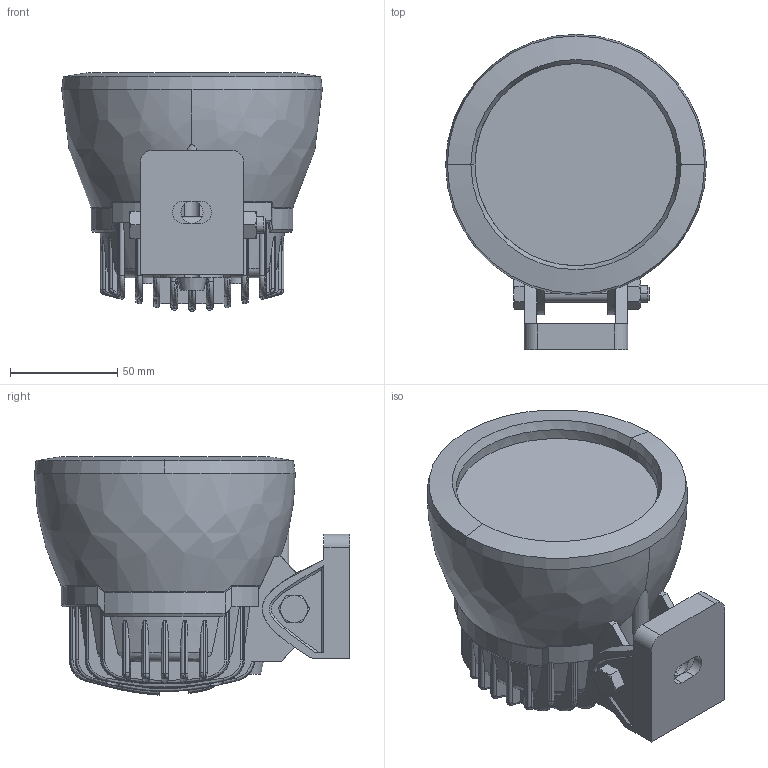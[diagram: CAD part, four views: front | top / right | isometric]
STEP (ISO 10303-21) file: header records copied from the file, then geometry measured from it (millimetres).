
FILE_DESCRIPTION (( 'STEP AP214' ), '1' );
FILE_NAME ('LED25WRE.STEP', '2020-02-19T15:12:50', ( '' ), ( '' ), 'SwSTEP 2.0', 'SolidWorks 2016', '' );
FILE_SCHEMA (( 'AUTOMOTIVE_DESIGN' ));
Length unit declared in the file: millimetre
Products named in the file (5): LED25WRE; hex bolt_ai_HBOLT 0.3125-18x2.25x0.875-N; hex nut_ai_HNUT 0.3125-18-D-N; hul-led25wre bracket; hul-led25wre_HUL-LED25WRE
Assembly tree (4 placements, depth 2):
  LED25WRE
    hul-led25wre_HUL-LED25WRE
    hul-led25wre bracket
    hex nut_ai_HNUT 0.3125-18-D-N
    hex bolt_ai_HBOLT 0.3125-18x2.25x0.875-N
Bounding box: 121.41 x 146.75 x 110.94 mm (x, y, z)
Volume: 846776.1 mm3; surface area: 92062.6 mm2
Topology: 4 solids, 4 shells, 608 faces, 1571 edges, 982 vertices
Faces by surface type: plane 190, bspline 175, cylinder 157, cone 53, torus 33
Entity records: 28592 total; most frequent: CARTESIAN_POINT 15232, ORIENTED_EDGE 3142, DIRECTION 2238, EDGE_CURVE 1571, VERTEX_POINT 982, AXIS2_PLACEMENT_3D 875, B_SPLINE_CURVE_WITH_KNOTS 638, EDGE_LOOP 631
